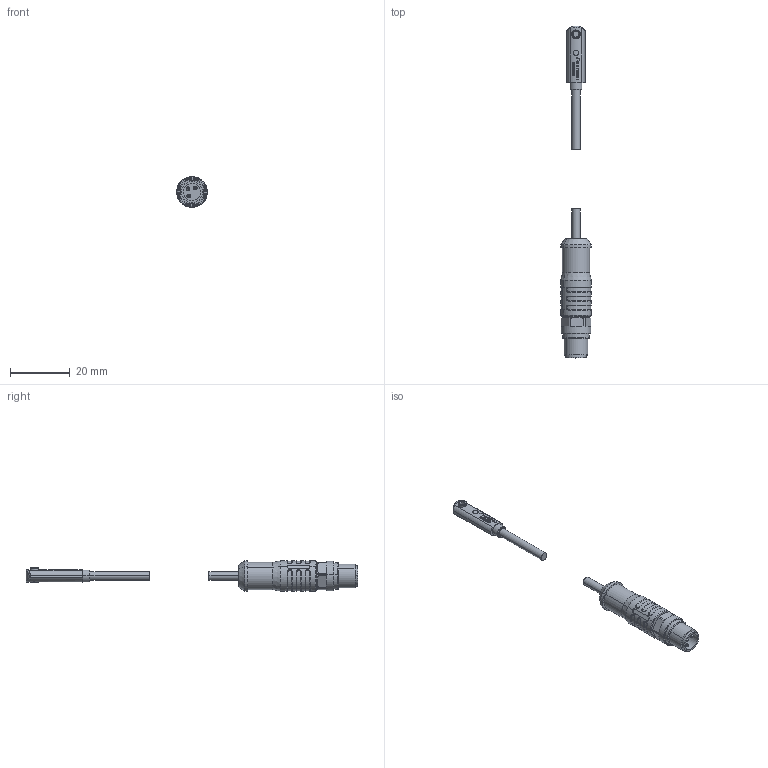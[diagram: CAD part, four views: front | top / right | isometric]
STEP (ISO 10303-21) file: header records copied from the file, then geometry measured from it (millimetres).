
FILE_DESCRIPTION (( 'STEP AP214' ), '1' );
FILE_NAME ('15000028 Elektronischer T-Nuten Sensor_mit Stecker.STEP', '2026-04-30T10:14:22', ( '' ), ( '' ), 'SwSTEP 2.0', 'SolidWorks 2020', '' );
FILE_SCHEMA (( 'AUTOMOTIVE_DESIGN' ));
Length unit declared in the file: millimetre
Products named in the file (1): 15000028 Elektronischer T-Nuten Sensor_mit Stecker
Bounding box: 10.29 x 111.6 x 10.3 mm (x, y, z)
Volume: 3159.5 mm3; surface area: 2345.2 mm2
Topology: 2 solids, 4 shells, 400 faces, 970 edges, 619 vertices
Faces by surface type: cylinder 132, plane 112, bspline 97, torus 32, cone 21, sphere 6
Entity records: 22194 total; most frequent: CARTESIAN_POINT 9189, ORIENTED_EDGE 1928, DIRECTION 1498, EDGE_CURVE 964, VERTEX_POINT 619, AXIS2_PLACEMENT_3D 567, EDGE_LOOP 447, UNCERTAINTY_MEASURE_WITH_UNIT 404
